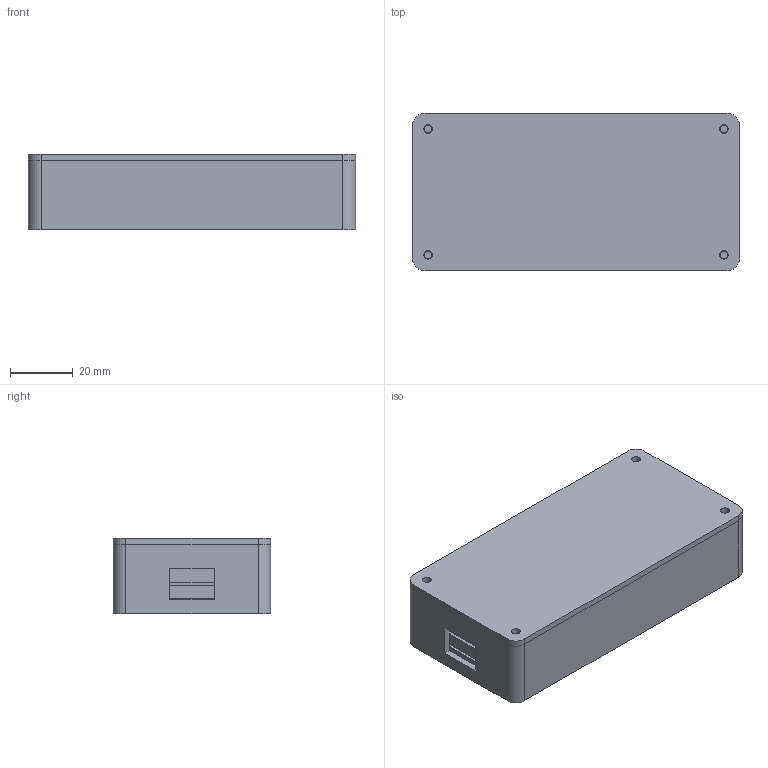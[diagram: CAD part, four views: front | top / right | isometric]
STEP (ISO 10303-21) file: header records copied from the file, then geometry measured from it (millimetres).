
FILE_DESCRIPTION(('Open CASCADE Model'),'2;1');
FILE_NAME('Open CASCADE Shape Model','2026-11-18T10:43:29',('Author'),( 'Open CASCADE'),'Open CASCADE STEP processor 7.9','Open CASCADE 7.9' ,'Unknown');
FILE_SCHEMA(('AUTOMOTIVE_DESIGN { 1 0 10303 214 1 1 1 1 }'));
Length unit declared in the file: millimetre
Products named in the file (7): GPS_tracker_fit_prototype; base; lid; ESP32S3; GNSS_stack_allowance; battery_reserved_not_selected; GNSS_antenna_assumed
Assembly tree (6 placements, depth 2):
  GPS_tracker_fit_prototype
    base
    lid
    ESP32S3
    GNSS_stack_allowance
    battery_reserved_not_selected
    GNSS_antenna_assumed
Bounding box: 104 x 50 x 24 mm (x, y, z)
Volume: 55257.6 mm3; surface area: 43674.3 mm2
Topology: 6 solids, 6 shells, 114 faces, 270 edges, 180 vertices
Faces by surface type: plane 94, cylinder 20
Full cylindrical faces by diameter (mm): 2.4 x4, 2.8 x4
Entity records: 6983 total; most frequent: CARTESIAN_POINT 1313, DIRECTION 1024, LINE 676, VECTOR 676, ORIENTED_EDGE 540, PCURVE 540, DEFINITIONAL_REPRESENTATION 540, EDGE_CURVE 270
